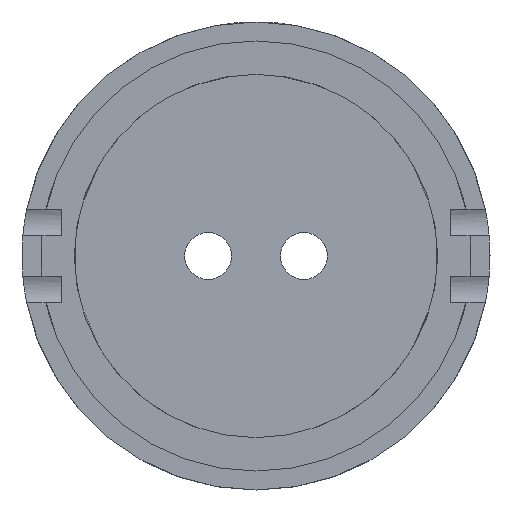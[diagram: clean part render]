
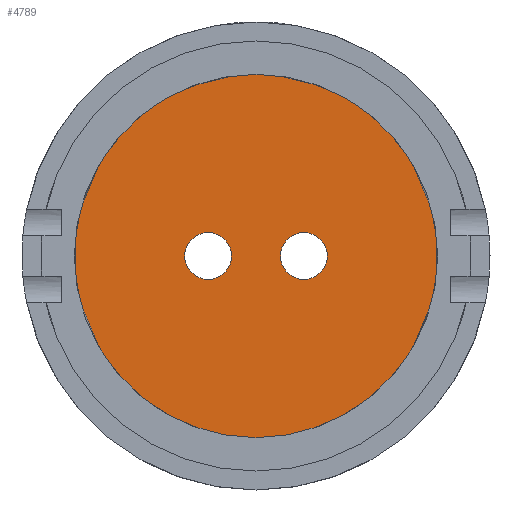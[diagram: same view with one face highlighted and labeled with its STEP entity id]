
A CAD part, left-side view. The second image highlights one B-rep face of the part: STEP entity #4789.
In plain terms, the highlighted planar face has unit normal (-1, 0, 0).
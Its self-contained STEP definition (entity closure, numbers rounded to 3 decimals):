
#2489 = CYLINDRICAL_SURFACE('',#2490,16.3);
#2490 = AXIS2_PLACEMENT_3D('',#2491,#2492,#2493);
#2491 = CARTESIAN_POINT('',(136.56,0.,0.));
#2492 = DIRECTION('',(1.,0.,0.));
#2493 = DIRECTION('',(0.,0.,-1.));
#4375 = VERTEX_POINT('',#4376);
#4376 = CARTESIAN_POINT('',(149.56,0.,-16.3));
#4397 = EDGE_CURVE('',#4375,#4375,#4398,.T.);
#4398 = SURFACE_CURVE('',#4399,(#4404,#4411),.PCURVE_S1.);
#4399 = CIRCLE('',#4400,16.3);
#4400 = AXIS2_PLACEMENT_3D('',#4401,#4402,#4403);
#4401 = CARTESIAN_POINT('',(149.56,0.,0.));
#4402 = DIRECTION('',(1.,-0.,0.));
#4403 = DIRECTION('',(0.,0.,-1.));
#4404 = PCURVE('',#2489,#4405);
#4405 = DEFINITIONAL_REPRESENTATION('',(#4406),#4410);
#4406 = LINE('',#4407,#4408);
#4407 = CARTESIAN_POINT('',(0.,13.));
#4408 = VECTOR('',#4409,1.);
#4409 = DIRECTION('',(1.,0.));
#4410 = ( GEOMETRIC_REPRESENTATION_CONTEXT(2) 
PARAMETRIC_REPRESENTATION_CONTEXT() REPRESENTATION_CONTEXT('2D SPACE',''
  ) );
#4411 = PCURVE('',#4412,#4417);
#4412 = PLANE('',#4413);
#4413 = AXIS2_PLACEMENT_3D('',#4414,#4415,#4416);
#4414 = CARTESIAN_POINT('',(149.56,0.,0.));
#4415 = DIRECTION('',(1.,0.,0.));
#4416 = DIRECTION('',(0.,0.,-1.));
#4417 = DEFINITIONAL_REPRESENTATION('',(#4418),#4422);
#4418 = CIRCLE('',#4419,16.3);
#4419 = AXIS2_PLACEMENT_2D('',#4420,#4421);
#4420 = CARTESIAN_POINT('',(0.,0.));
#4421 = DIRECTION('',(1.,0.));
#4422 = ( GEOMETRIC_REPRESENTATION_CONTEXT(2) 
PARAMETRIC_REPRESENTATION_CONTEXT() REPRESENTATION_CONTEXT('2D SPACE',''
  ) );
#4544 = CYLINDRICAL_SURFACE('',#4545,2.1);
#4545 = AXIS2_PLACEMENT_3D('',#4546,#4547,#4548);
#4546 = CARTESIAN_POINT('',(147.47,-4.3,0.));
#4547 = DIRECTION('',(1.,0.,0.));
#4548 = DIRECTION('',(0.,0.,-1.));
#4575 = CYLINDRICAL_SURFACE('',#4576,2.1);
#4576 = AXIS2_PLACEMENT_3D('',#4577,#4578,#4579);
#4577 = CARTESIAN_POINT('',(147.47,4.3,0.));
#4578 = DIRECTION('',(1.,0.,0.));
#4579 = DIRECTION('',(0.,0.,-1.));
#4789 = ADVANCED_FACE('',(#4790,#4793,#4819),#4412,.F.);
#4790 = FACE_BOUND('',#4791,.F.);
#4791 = EDGE_LOOP('',(#4792));
#4792 = ORIENTED_EDGE('',*,*,#4397,.T.);
#4793 = FACE_BOUND('',#4794,.F.);
#4794 = EDGE_LOOP('',(#4795));
#4795 = ORIENTED_EDGE('',*,*,#4796,.F.);
#4796 = EDGE_CURVE('',#4797,#4797,#4799,.T.);
#4797 = VERTEX_POINT('',#4798);
#4798 = CARTESIAN_POINT('',(149.56,-4.3,-2.1));
#4799 = SURFACE_CURVE('',#4800,(#4805,#4812),.PCURVE_S1.);
#4800 = CIRCLE('',#4801,2.1);
#4801 = AXIS2_PLACEMENT_3D('',#4802,#4803,#4804);
#4802 = CARTESIAN_POINT('',(149.56,-4.3,0.));
#4803 = DIRECTION('',(1.,0.,0.));
#4804 = DIRECTION('',(0.,0.,-1.));
#4805 = PCURVE('',#4412,#4806);
#4806 = DEFINITIONAL_REPRESENTATION('',(#4807),#4811);
#4807 = CIRCLE('',#4808,2.1);
#4808 = AXIS2_PLACEMENT_2D('',#4809,#4810);
#4809 = CARTESIAN_POINT('',(0.,-4.3));
#4810 = DIRECTION('',(1.,0.));
#4811 = ( GEOMETRIC_REPRESENTATION_CONTEXT(2) 
PARAMETRIC_REPRESENTATION_CONTEXT() REPRESENTATION_CONTEXT('2D SPACE',''
  ) );
#4812 = PCURVE('',#4544,#4813);
#4813 = DEFINITIONAL_REPRESENTATION('',(#4814),#4818);
#4814 = LINE('',#4815,#4816);
#4815 = CARTESIAN_POINT('',(0.,2.09));
#4816 = VECTOR('',#4817,1.);
#4817 = DIRECTION('',(1.,0.));
#4818 = ( GEOMETRIC_REPRESENTATION_CONTEXT(2) 
PARAMETRIC_REPRESENTATION_CONTEXT() REPRESENTATION_CONTEXT('2D SPACE',''
  ) );
#4819 = FACE_BOUND('',#4820,.F.);
#4820 = EDGE_LOOP('',(#4821));
#4821 = ORIENTED_EDGE('',*,*,#4822,.F.);
#4822 = EDGE_CURVE('',#4823,#4823,#4825,.T.);
#4823 = VERTEX_POINT('',#4824);
#4824 = CARTESIAN_POINT('',(149.56,4.3,-2.1));
#4825 = SURFACE_CURVE('',#4826,(#4831,#4838),.PCURVE_S1.);
#4826 = CIRCLE('',#4827,2.1);
#4827 = AXIS2_PLACEMENT_3D('',#4828,#4829,#4830);
#4828 = CARTESIAN_POINT('',(149.56,4.3,0.));
#4829 = DIRECTION('',(1.,0.,0.));
#4830 = DIRECTION('',(0.,0.,-1.));
#4831 = PCURVE('',#4412,#4832);
#4832 = DEFINITIONAL_REPRESENTATION('',(#4833),#4837);
#4833 = CIRCLE('',#4834,2.1);
#4834 = AXIS2_PLACEMENT_2D('',#4835,#4836);
#4835 = CARTESIAN_POINT('',(0.,4.3));
#4836 = DIRECTION('',(1.,0.));
#4837 = ( GEOMETRIC_REPRESENTATION_CONTEXT(2) 
PARAMETRIC_REPRESENTATION_CONTEXT() REPRESENTATION_CONTEXT('2D SPACE',''
  ) );
#4838 = PCURVE('',#4575,#4839);
#4839 = DEFINITIONAL_REPRESENTATION('',(#4840),#4844);
#4840 = LINE('',#4841,#4842);
#4841 = CARTESIAN_POINT('',(0.,2.09));
#4842 = VECTOR('',#4843,1.);
#4843 = DIRECTION('',(1.,0.));
#4844 = ( GEOMETRIC_REPRESENTATION_CONTEXT(2) 
PARAMETRIC_REPRESENTATION_CONTEXT() REPRESENTATION_CONTEXT('2D SPACE',''
  ) );
